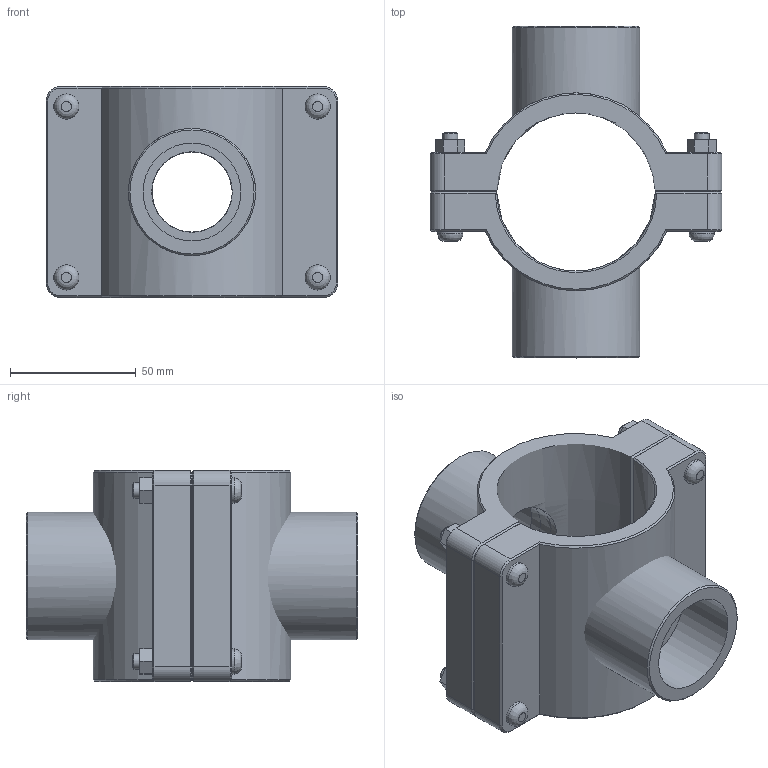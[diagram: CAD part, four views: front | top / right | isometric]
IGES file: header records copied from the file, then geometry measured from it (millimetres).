
Global section: file name: 161760063013_161860063013.ipt; native system: Autodesk Inventor 2015; preprocessor: unknown; author: KIM; date: 20170618.093707; units: millimetre
Bounding box: 116 x 132 x 84 mm (x, y, z)
Volume: 306631 mm3; surface area: 82091.8 mm2
Topology: 3 solids, 3 shells, 151 faces, 350 edges, 221 vertices
Faces by surface type: plane 84, cone 26, cylinder 24, revolution 17
Full cylindrical faces by diameter (mm): 6 x4, 10 x8, 50.638 x2
